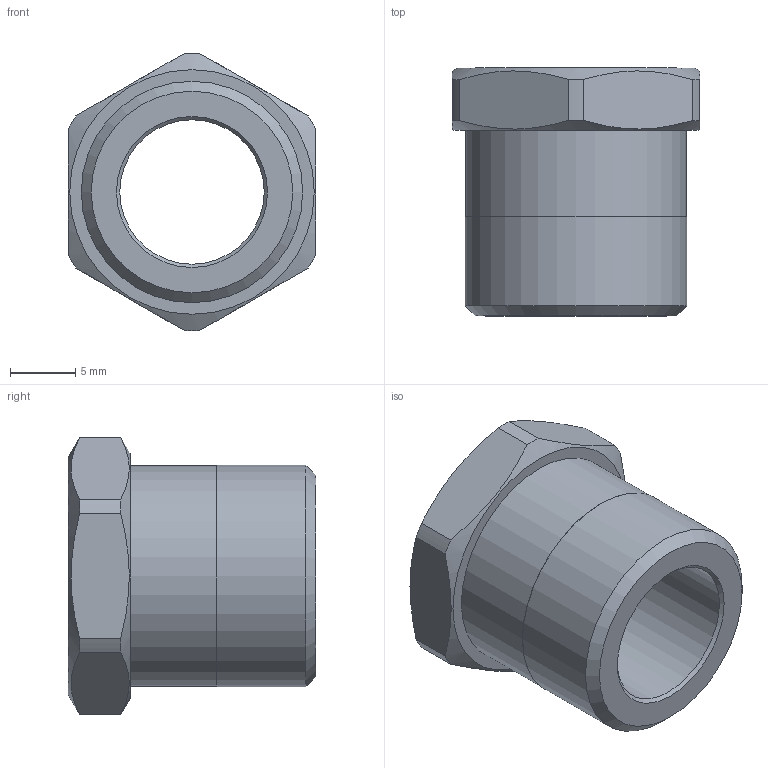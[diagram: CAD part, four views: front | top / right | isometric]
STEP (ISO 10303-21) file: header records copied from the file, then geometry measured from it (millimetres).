
FILE_DESCRIPTION(/* description */ (''),/* implementation_level */ '2;1');
FILE_NAME(/* name */ 'C:/Users/drich/Desktop/RB38-4 v1.step',/* time_stamp */ '2020-02-09T11:00:08-06:00',/* author */ (''),/* organization */ (''),/* preprocessor_version */ 'ST-DEVELOPER v18',/* originating_system */ 'Autodesk Translation Framework v8.12.0.6',/* authorisation */ '');
FILE_SCHEMA (('AUTOMOTIVE_DESIGN { 1 0 10303 214 3 1 1 }'));
Length unit declared in the file: inch
Products named in the file (1): RB38-4
Bounding box: 19.05 x 19.05 x 21.33 mm (x, y, z)
Volume: 2827.4 mm3; surface area: 2084.3 mm2
Topology: 1 solids, 1 shells, 26 faces, 68 edges, 47 vertices
Faces by surface type: plane 11, cylinder 10, cone 5
Full cylindrical faces by diameter (mm): 11.1 x1, 11.151 x1, 16.967 x1, 17.018 x1
Entity records: 861 total; most frequent: CARTESIAN_POINT 166, DIRECTION 145, ORIENTED_EDGE 136, EDGE_CURVE 68, AXIS2_PLACEMENT_3D 62, VERTEX_POINT 47, CIRCLE 35, EDGE_LOOP 31
